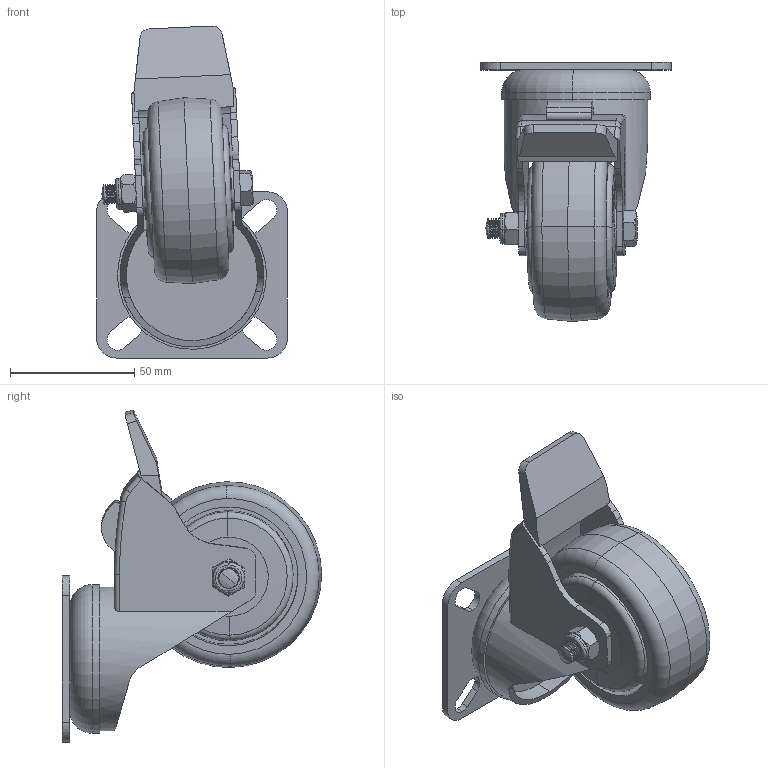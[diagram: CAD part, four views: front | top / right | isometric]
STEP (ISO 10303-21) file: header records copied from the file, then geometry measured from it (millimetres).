
FILE_DESCRIPTION (( 'STEP AP214' ), '1' );
FILE_NAME ('HCR75-P-TB.STEP', '2022-12-18T19:15:43', ( '' ), ( '' ), 'SwSTEP 2.0', 'SolidWorks 2021', '' );
FILE_SCHEMA (( 'AUTOMOTIVE_DESIGN' ));
Length unit declared in the file: millimetre
Products named in the file (6): HCR75-P-TB; 77x67 HCR; M8x55-SS; 75 HCR; HCR75-BRAKE; M8Nyloc-SS
Assembly tree (5 placements, depth 2):
  HCR75-P-TB
    HCR75-BRAKE
    77x67 HCR
    75 HCR
    M8x55-SS
    M8Nyloc-SS
Bounding box: 77 x 104.49 x 133.85 mm (x, y, z)
Volume: 204686.9 mm3; surface area: 65685.1 mm2
Topology: 5 solids, 5 shells, 488 faces, 1298 edges, 854 vertices
Faces by surface type: plane 215, cylinder 122, bspline 102, cone 31, torus 16, sphere 2
Entity records: 24624 total; most frequent: CARTESIAN_POINT 12956, ORIENTED_EDGE 2596, DIRECTION 1883, EDGE_CURVE 1298, VERTEX_POINT 854, LINE 691, VECTOR 691, AXIS2_PLACEMENT_3D 596
